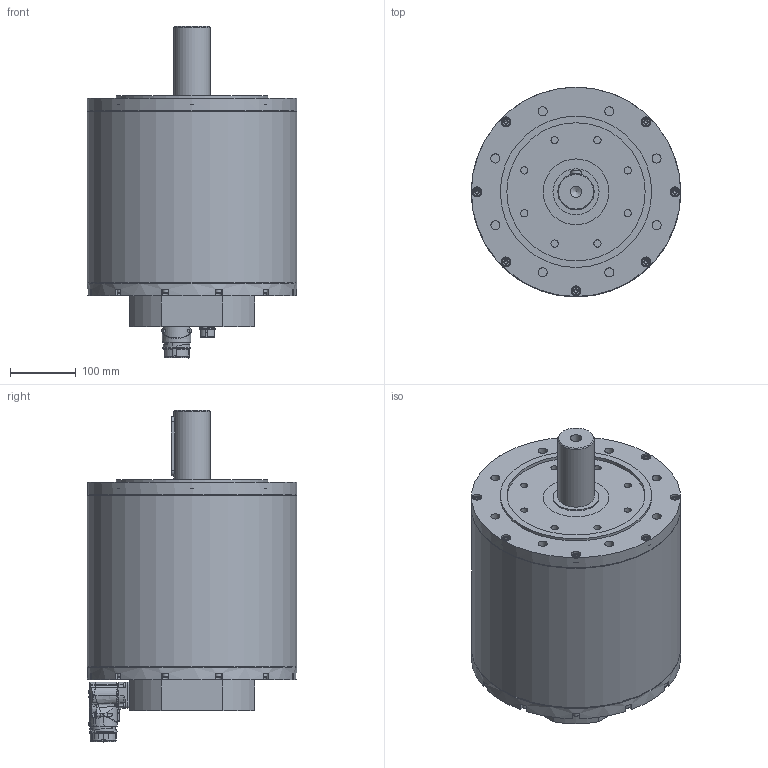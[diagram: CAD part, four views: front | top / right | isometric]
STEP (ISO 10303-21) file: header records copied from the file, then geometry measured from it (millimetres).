
FILE_DESCRIPTION(/* description */ (''),/* implementation_level */ '2;1');
FILE_NAME(/* name */ 'C:\Users\Public\Documents\Autodesk\Inventor LT 2014\Workspace\Motori Sito WEB\TG_8\STEP_DSM5_8x\DSM5_82_x099.stp',/* time_stamp */ '2021-03-31T14:33:36+02:00',/* author */ ('marcor'),/* organization */ (''),/* preprocessor_version */ 'ST-DEVELOPER v15.2',/* originating_system */ 'Autodesk Inventor LT ',/* authorisation */ '');
FILE_SCHEMA (('AUTOMOTIVE_DESIGN { 1 0 10303 214 3 1 1 }'));
Products named in the file (1): DSM5_82_x099
Bounding box: 318 x 318 x 504.5 mm (x, y, z)
Volume: 25696920.6 mm3; surface area: 997954.5 mm2
Topology: 28 solids, 49 shells, 2004 faces, 5142 edges, 3363 vertices
Faces by surface type: plane 881, cone 450, cylinder 413, bspline 135, torus 108, sphere 17
Full cylindrical faces by diameter (mm): 1.2 x17, 2 x2, 2.013 x4, 2.224 x4, 2.5 x4, 2.88 x4, 3.242 x4, 3.26 x4, 3.6 x5, 4 x5, 4.5 x1, 4.8 x4, 4.917 x16, 5.4 x1, 5.5 x1, 5.9 x1, 6 x16, 6.5 x16, 6.647 x8, 7 x4, 8 x10, 8.5 x1, 9 x7, 10 x16, 10.106 x2, 11 x12, 13 x7, 13.835 x8, 15 x7, 15.2 x1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
Entity records: 65562 total; most frequent: CARTESIAN_POINT 19430, ORIENTED_EDGE 8928, DIRECTION 8774, EDGE_CURVE 4462, AXIS2_PLACEMENT_3D 3492, VERTEX_POINT 3179, EDGE_LOOP 2731, ADVANCED_FACE 2004
